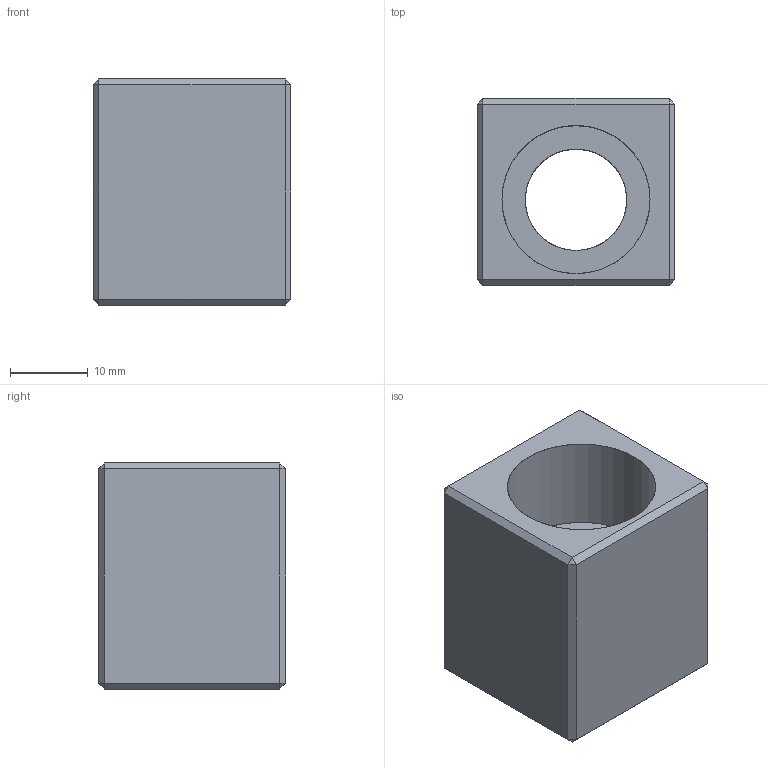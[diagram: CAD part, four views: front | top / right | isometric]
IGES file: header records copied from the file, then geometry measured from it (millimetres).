
Start section: SolidWorks IGES FILE using analytic representation for surfaces
Global section: file name: C:\WIX2\Positioning\3030\3030W250.igs; native system: SolidWorks 2003 by SolidWorks Corporation; preprocessor: Version 5.3; author: Joan; date: 030722.120017; units: millimetre
Bounding box: 25.4 x 24 x 29 mm (x, y, z)
Surface area: 5093.4 mm2 (no closed solid volume)
Topology: 0 solids, 0 shells, 31 faces, 240 edges, 240 vertices
Faces by surface type: bspline 27, revolution 4
